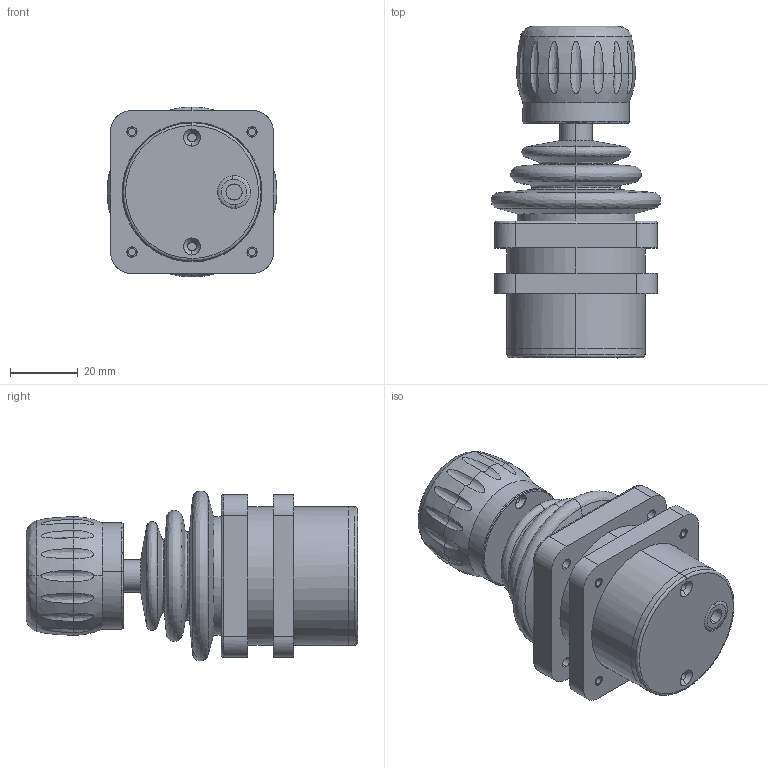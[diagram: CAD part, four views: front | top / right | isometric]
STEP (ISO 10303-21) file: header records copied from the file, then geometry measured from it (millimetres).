
FILE_DESCRIPTION (( 'STEP AP214' ), '1' );
FILE_NAME ('TRY10_4516111.STEP', '2011-11-30T09:14:31', ( 'admin' ), ( '' ), 'SwSTEP 2.0', 'SolidWorks 2007', '' );
FILE_SCHEMA (( 'AUTOMOTIVE_DESIGN' ));
Length unit declared in the file: inch
Products named in the file (1): TRY10_4516111
Bounding box: 50.3 x 98.27 x 50.32 mm (x, y, z)
Surface area: 27366.7 mm2 (no closed solid volume)
Topology: 0 solids, 9 shells, 240 faces, 646 edges, 403 vertices
Faces by surface type: bspline 114, cylinder 76, plane 28, cone 22
Entity records: 16163 total; most frequent: CARTESIAN_POINT 11365, ORIENTED_EDGE 1180, EDGE_CURVE 640, DIRECTION 580, VERTEX_POINT 403, B_SPLINE_CURVE_WITH_KNOTS 369, EDGE_LOOP 273, ADVANCED_FACE 240
